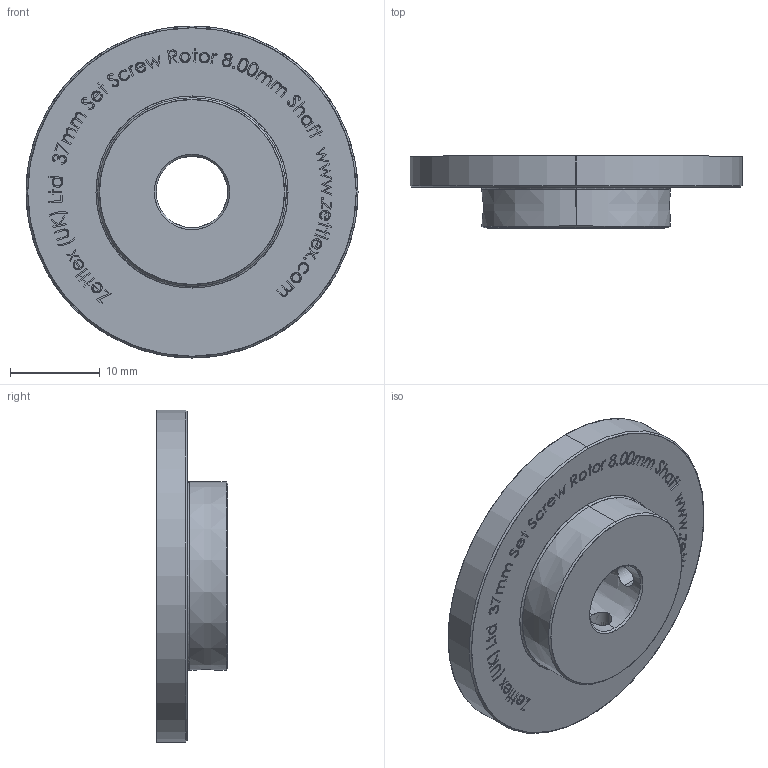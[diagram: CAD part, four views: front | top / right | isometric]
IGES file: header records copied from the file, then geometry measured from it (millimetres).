
Start section: SolidWorks IGES file using analytic representation for surfaces
Global section: file name: C:\Zettlex Data\Mechanical Drawings\4114\37mm Set Screw Rotor 8.00mm Shaft Rev 1-0.IGS; native system: SolidWorks 2015; preprocessor: SolidWorks 2015; author: Nigel; date: 150904.162154; units: millimetre
Bounding box: 37 x 8 x 37 mm (x, y, z)
Surface area: 3043.6 mm2 (no closed solid volume)
Topology: 0 solids, 0 shells, 791 faces, 8877 edges, 8877 vertices
Faces by surface type: bspline 767, revolution 24
